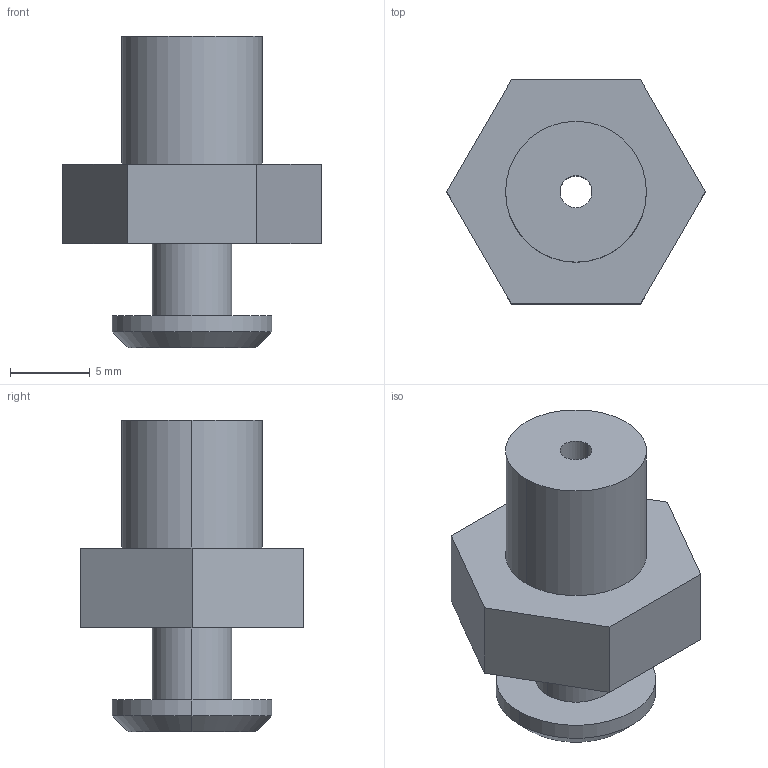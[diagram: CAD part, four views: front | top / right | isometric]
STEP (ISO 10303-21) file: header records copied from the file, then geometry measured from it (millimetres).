
FILE_DESCRIPTION (( 'STEP AP214' ), '1' );
FILE_NAME ('VM34-G18.STEP', '2023-03-07T08:56:45', ( 'Windows User' ), ( 'P R C' ), 'SwSTEP 2.0', 'SolidWorks 2019', '' );
FILE_SCHEMA (( 'AUTOMOTIVE_DESIGN' ));
Length unit declared in the file: millimetre
Products named in the file (1): VM34-G18
Bounding box: 16.17 x 14 x 19.5 mm (x, y, z)
Volume: 1504.8 mm3; surface area: 1151 mm2
Topology: 1 solids, 1 shells, 21 faces, 46 edges, 30 vertices
Faces by surface type: plane 11, cylinder 8, cone 2
Entity records: 620 total; most frequent: DIRECTION 108, CARTESIAN_POINT 98, ORIENTED_EDGE 92, EDGE_CURVE 46, AXIS2_PLACEMENT_3D 40, VERTEX_POINT 30, LINE 28, VECTOR 28
